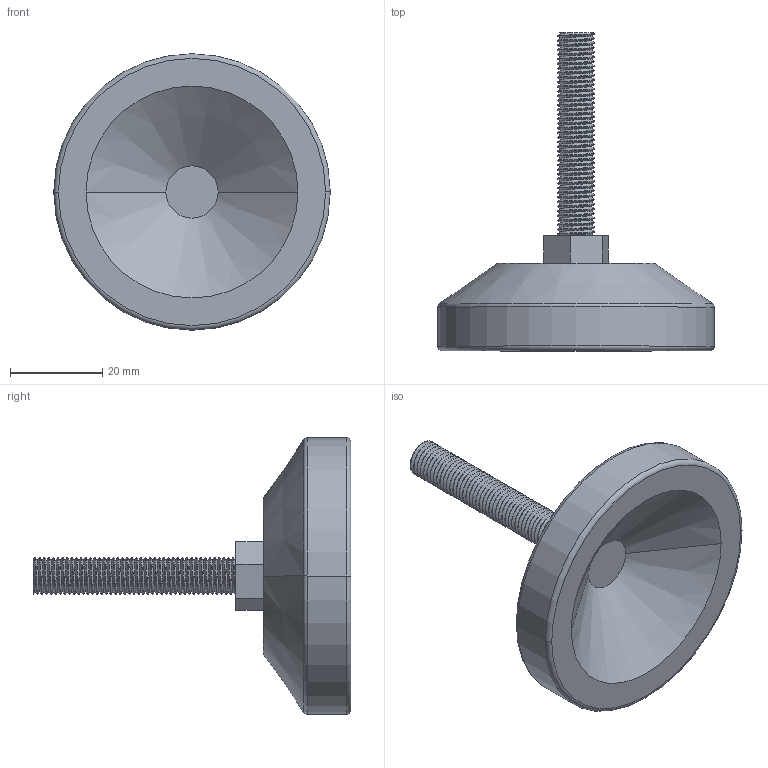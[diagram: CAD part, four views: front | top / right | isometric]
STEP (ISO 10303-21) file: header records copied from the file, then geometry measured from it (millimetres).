
FILE_DESCRIPTION (( 'STEP AP203' ), '1' );
FILE_NAME ('228-CE-UAFS-8.STEP', '2015-07-09T09:32:23', ( '' ), ( '' ), 'SwSTEP 2.0', 'SolidWorks 2013', '' );
FILE_SCHEMA (( 'CONFIG_CONTROL_DESIGN' ));
Length unit declared in the file: millimetre
Products named in the file (1): 228-CE-UAFS-8
Bounding box: 60 x 69 x 60 mm (x, y, z)
Volume: 38268.4 mm3; surface area: 10623.5 mm2
Topology: 1 solids, 1 shells, 115 faces, 322 edges, 212 vertices
Faces by surface type: cylinder 91, plane 12, torus 4, cone 4, bspline 4
Entity records: 12237 total; most frequent: CARTESIAN_POINT 9742, ORIENTED_EDGE 644, DIRECTION 384, EDGE_CURVE 322, VERTEX_POINT 212, AXIS2_PLACEMENT_3D 134, EDGE_LOOP 118, LINE 116
